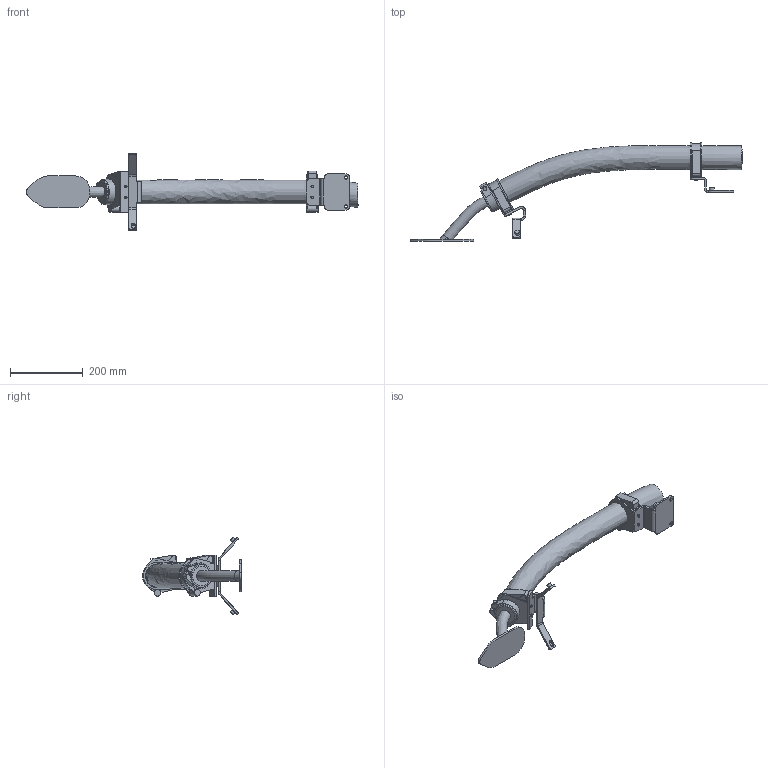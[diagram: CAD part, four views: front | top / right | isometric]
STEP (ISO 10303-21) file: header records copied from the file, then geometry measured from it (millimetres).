
FILE_DESCRIPTION (( 'STEP AP214' ), '1' );
FILE_NAME ('IRB7710-MH3_All-285_OC_00_LINK04_CABLE.step', '2026-01-28T10:15:15', ( '' ), ( '' ), 'SwSTEP 2.0', 'SolidWorks 2024', '' );
FILE_SCHEMA (( 'AUTOMOTIVE_DESIGN' ));
Length unit declared in the file: millimetre
Products named in the file (1): IRB7710-MH3_All-285_OC_00_LINK04_CABLE
Bounding box: 913 x 271.45 x 214.13 mm (x, y, z)
Volume: 3068708.9 mm3; surface area: 299687.3 mm2
Topology: 1 solids, 2 shells, 286 faces, 754 edges, 486 vertices
Faces by surface type: plane 199, cylinder 77, bspline 5, cone 5
Full cylindrical faces by diameter (mm): 6 x1, 7 x4, 9 x2, 10 x1, 13 x4, 19 x2, 62.2 x1, 65 x1, 66 x1
Entity records: 24571 total; most frequent: CARTESIAN_POINT 14461, DIRECTION 1433, ORIENTED_EDGE 1414, EDGE_CURVE 707, LINE 505, VECTOR 505, VERTEX_POINT 466, AXIS2_PLACEMENT_3D 464
